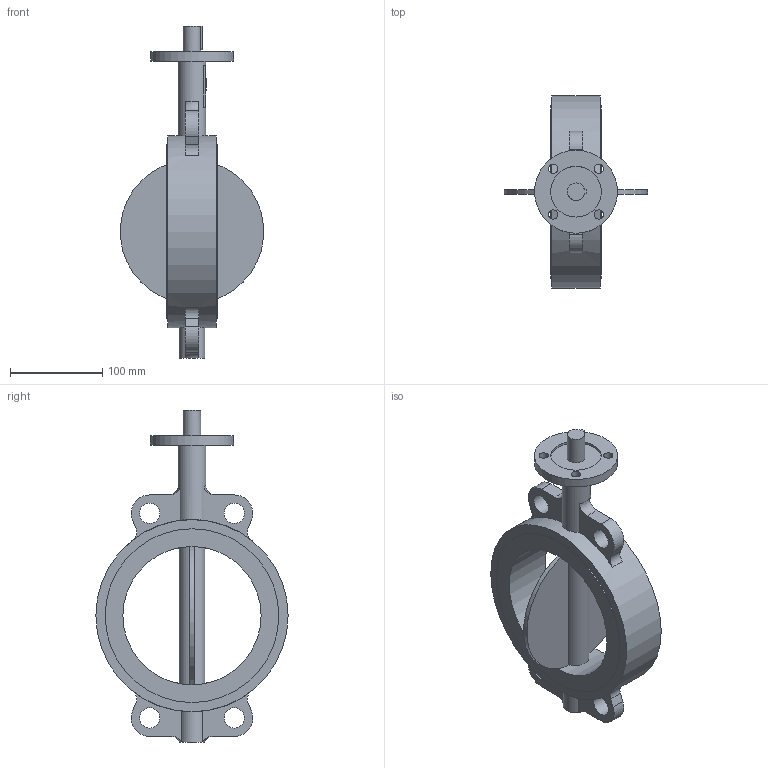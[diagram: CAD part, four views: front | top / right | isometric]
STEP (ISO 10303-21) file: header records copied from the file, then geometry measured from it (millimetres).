
FILE_DESCRIPTION(('STEP AP203'), '1');
FILE_NAME('青蜮铕 017W.Y_DN150_PN10_PN16', '', ('UNSPECIFIED'), ('UNSPECIFIED'), 'ASCON STEP Converter 1.6', 'ASCON Math Kernel', '');
FILE_SCHEMA(('CONFIG_CONTROL_DESIGN'));
Length unit declared in the file: millimetre
Bounding box: 155.12 x 208.4 x 360 mm (x, y, z)
Volume: 1277633.5 mm3; surface area: 180014.4 mm2
Topology: 1 solids, 1 shells, 91 faces, 228 edges, 150 vertices
Faces by surface type: plane 48, cylinder 39, torus 4
Full cylindrical faces by diameter (mm): 10 x4, 18.9 x1, 22 x4, 30 x1, 55 x1, 90 x1, 150 x1, 188.4 x2, 208.4 x1
Entity records: 4809 total; most frequent: CARTESIAN_POINT 1835, DIRECTION 464, ORIENTED_EDGE 424, EDGE_CURVE 212, AXIS2_PLACEMENT_3D 182, VERTEX_POINT 150, EDGE_LOOP 138, FACE_BOUND 108
